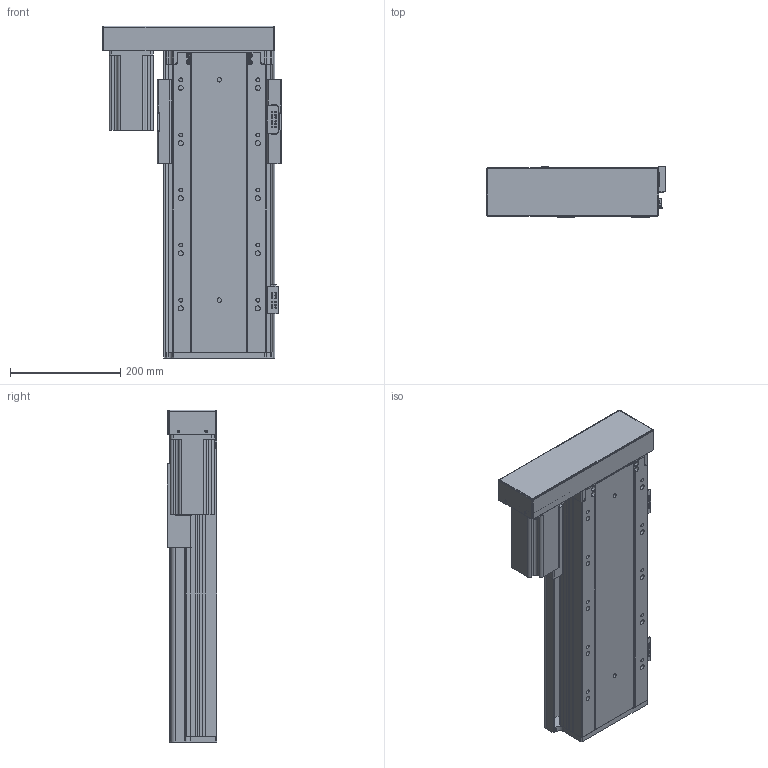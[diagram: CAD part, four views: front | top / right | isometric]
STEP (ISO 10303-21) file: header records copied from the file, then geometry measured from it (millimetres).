
FILE_DESCRIPTION (( 'STEP AP203' ), '1' );
FILE_NAME ('RY170FB-L2020-300-LK.SLDASM_300.step', '2021-02-23T03:02:13', ( '盈信电脑' ), ( '东莞市道滘镇水果街19号' ), 'SwSTEP 2.0', 'SolidWorks 2012', '' );
FILE_SCHEMA (( 'CONFIG_CONTROL_DESIGN' ));
Length unit declared in the file: millimetre
Products named in the file (16): RY170FB-L2020-300-LK.SLDASM_300; RY140FB-674嫖萇覜茼え; RY170FB-左右折电机安装板750W; RY170FB-酘衵殏萇儂欶750W; RY140-674嫖萇耀輸; RY140直线电机感应器674光电安装座; 覜茼ん674; 怢湛750W萇儂ㄗ80遺ㄘ; RY170FB-300蛌殏奻裔-LK; RY170FB-綴裔啣; RY170FB-铝滑块(25丝杆）; RY170FB-300蛌殏倰第菁釱-LK; 滅袉蝶18-28; RY170FB-转折电机端支撑座(7002); 滅袉蝶18-10
Assembly tree (18 placements, depth 3):
  RY170FB-L2020-300-LK.SLDASM_300
    RY170FB-300蛌殏倰第菁釱-LK
    滅袉蝶18-28
    滅袉蝶18-10
    RY170FB-转折电机端支撑座(7002)
    怢湛750W萇儂ㄗ80遺ㄘ
    RY170FB-铝滑块(25丝杆）
    RY170FB-綴裔啣
    RY170FB-300蛌殏奻裔-LK
    RY140-674嫖萇耀輸
      覜茼ん674  x2
      RY140直线电机感应器674光电安装座
    RY140-674嫖萇耀輸
      覜茼ん674
      RY140直线电机感应器674光电安装座
    RY140FB-674嫖萇覜茼え
    RY170FB-左右折电机安装板750W
    RY170FB-酘衵殏萇儂欶750W
Bounding box: 323.95 x 90.5 x 602.7 mm (x, y, z)
Volume: 4708739.2 mm3; surface area: 1297940.9 mm2
Topology: 16 solids, 16 shells, 1457 faces, 4082 edges, 2602 vertices
Faces by surface type: cylinder 735, plane 586, cone 128, bspline 8
Entity records: 45247 total; most frequent: CARTESIAN_POINT 10304, ORIENTED_EDGE 6960, DIRECTION 6894, EDGE_CURVE 3480, AXIS2_PLACEMENT_3D 2494, VERTEX_POINT 2282, LINE 1906, VECTOR 1906
